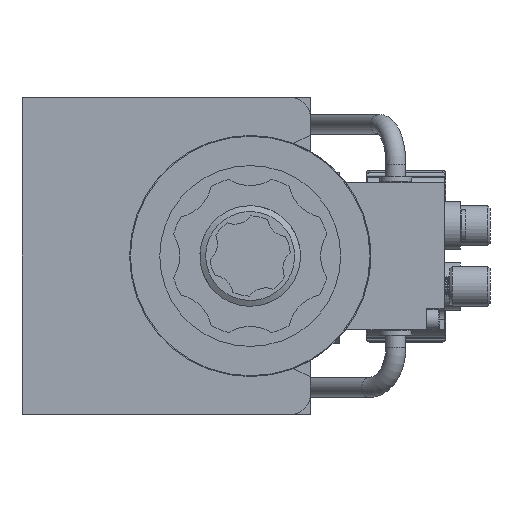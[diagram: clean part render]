
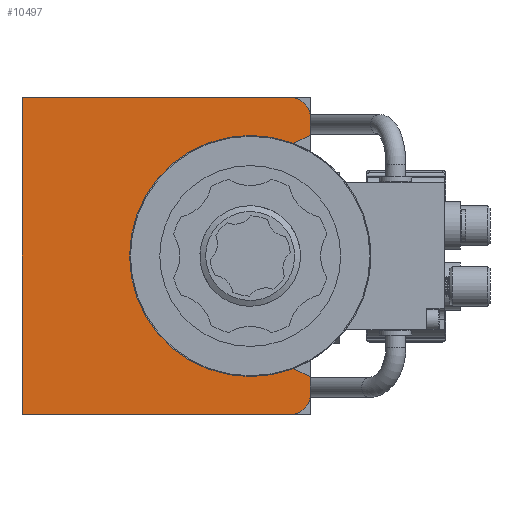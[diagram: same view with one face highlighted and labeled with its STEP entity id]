
A CAD part, left-side view. The second image highlights one B-rep face of the part: STEP entity #10497.
In plain terms, the highlighted planar face has unit normal (-1, 0, 0).
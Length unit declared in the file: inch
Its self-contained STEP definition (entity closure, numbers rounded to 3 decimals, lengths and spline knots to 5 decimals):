
#1940 = CARTESIAN_POINT ( 'NONE',  ( -5.1175, -0.5, 1.97 ) ) ;
#1941 = CARTESIAN_POINT ( 'NONE',  ( -5.1175, -0.75, -1.72 ) ) ;
#1943 = CARTESIAN_POINT ( 'NONE',  ( -5.1175, -0.75, 1.72 ) ) ;
#4733 = LINE ( 'NONE', #16235, #4770 ) ;
#4769 = LINE ( 'NONE', #16253, #4774 ) ;
#4770 = VECTOR ( 'NONE', #16241, 39.37008 ) ;
#4774 = VECTOR ( 'NONE', #16243, 39.37008 ) ;
#4776 = CIRCLE ( 'NONE', #36273, 0.265 ) ;
#4803 = CIRCLE ( 'NONE', #36209, 1.47 ) ;
#4829 = CIRCLE ( 'NONE', #36299, 0.265 ) ;
#4856 = CIRCLE ( 'NONE', #36306, 0.25 ) ;
#4882 = CIRCLE ( 'NONE', #36305, 0.25 ) ;
#4884 = LINE ( 'NONE', #16449, #4886 ) ;
#4885 = LINE ( 'NONE', #16456, #4888 ) ;
#4886 = VECTOR ( 'NONE', #16447, 39.37008 ) ;
#4887 = LINE ( 'NONE', #16458, #4890 ) ;
#4888 = VECTOR ( 'NONE', #16457, 39.37008 ) ;
#4889 = LINE ( 'NONE', #16460, #4892 ) ;
#4890 = VECTOR ( 'NONE', #16459, 39.37008 ) ;
#4892 = VECTOR ( 'NONE', #16461, 39.37008 ) ;
#10497 = ADVANCED_FACE ( 'NONE', ( #11209 ), #33197, .F. ) ;
#11209 = FACE_OUTER_BOUND ( 'NONE', #20646, .T. ) ;
#12528 = VERTEX_POINT ( 'NONE', #1943 ) ;
#12530 = VERTEX_POINT ( 'NONE', #1941 ) ;
#12531 = VERTEX_POINT ( 'NONE', #1940 ) ;
#12819 = VERTEX_POINT ( 'NONE', #17006 ) ;
#14372 = EDGE_CURVE ( 'NONE', #31056, #31112, #15023, .T. ) ;
#15023 = LINE ( 'NONE', #34747, #15029 ) ;
#15029 = VECTOR ( 'NONE', #34761, 39.37008 ) ;
#16235 = CARTESIAN_POINT ( 'NONE',  ( -5.1175, -0.75, 1.5 ) ) ;
#16241 = DIRECTION ( 'NONE',  ( 0., 0., 1. ) ) ;
#16243 = DIRECTION ( 'NONE',  ( 0., -0.912, 0.41 ) ) ;
#16253 = CARTESIAN_POINT ( 'NONE',  ( -5.1175, -0.75, 1.5 ) ) ;
#16256 = CARTESIAN_POINT ( 'NONE',  ( -5.1175, -0.45593, 1.65847 ) ) ;
#16257 = DIRECTION ( 'NONE',  ( -1., 0., 0. ) ) ;
#16258 = DIRECTION ( 'NONE',  ( 0., -1., 0. ) ) ;
#16303 = CARTESIAN_POINT ( 'NONE',  ( -5.1175, 0., 0. ) ) ;
#16304 = DIRECTION ( 'NONE',  ( -1., 0., 0. ) ) ;
#16305 = DIRECTION ( 'NONE',  ( 0., -1., 0. ) ) ;
#16409 = CARTESIAN_POINT ( 'NONE',  ( -5.1175, -0.45593, -1.65847 ) ) ;
#16410 = DIRECTION ( 'NONE',  ( 1., 0., 0. ) ) ;
#16411 = DIRECTION ( 'NONE',  ( 0., -1., 0. ) ) ;
#16413 = CARTESIAN_POINT ( 'NONE',  ( -5.1175, -0.5, 1.72 ) ) ;
#16414 = DIRECTION ( 'NONE',  ( -1., 0., 0. ) ) ;
#16415 = DIRECTION ( 'NONE',  ( 0., -1., 0. ) ) ;
#16447 = DIRECTION ( 'NONE',  ( 0., 0., -1. ) ) ;
#16449 = CARTESIAN_POINT ( 'NONE',  ( -5.1175, -0.75, -1.5 ) ) ;
#16453 = CARTESIAN_POINT ( 'NONE',  ( -5.1175, -0.5, -1.72 ) ) ;
#16454 = DIRECTION ( 'NONE',  ( 1., 0., 0. ) ) ;
#16455 = DIRECTION ( 'NONE',  ( 0., -1., 0. ) ) ;
#16456 = CARTESIAN_POINT ( 'NONE',  ( -5.1175, -0.75, -1.5 ) ) ;
#16457 = DIRECTION ( 'NONE',  ( 0., -0.912, -0.41 ) ) ;
#16458 = CARTESIAN_POINT ( 'NONE',  ( -5.1175, 2.838, -1.97 ) ) ;
#16459 = DIRECTION ( 'NONE',  ( 0., 1., 0. ) ) ;
#16460 = CARTESIAN_POINT ( 'NONE',  ( -5.1175, 2.838, 1.97 ) ) ;
#16461 = DIRECTION ( 'NONE',  ( 0., 1., 0. ) ) ;
#17006 = CARTESIAN_POINT ( 'NONE',  ( -5.1175, -0.46738, -1.39372 ) ) ;
#18897 = ORIENTED_EDGE ( 'NONE', *, *, #32201, .T. ) ;
#18898 = ORIENTED_EDGE ( 'NONE', *, *, #32205, .T. ) ;
#18899 = ORIENTED_EDGE ( 'NONE', *, *, #32280, .T. ) ;
#18900 = ORIENTED_EDGE ( 'NONE', *, *, #32260, .T. ) ;
#18901 = ORIENTED_EDGE ( 'NONE', *, *, #32279, .F. ) ;
#18902 = ORIENTED_EDGE ( 'NONE', *, *, #14372, .F. ) ;
#18903 = ORIENTED_EDGE ( 'NONE', *, *, #32276, .F. ) ;
#18962 = ORIENTED_EDGE ( 'NONE', *, *, #32278, .F. ) ;
#19024 = ORIENTED_EDGE ( 'NONE', *, *, #32224, .F. ) ;
#19026 = ORIENTED_EDGE ( 'NONE', *, *, #32277, .F. ) ;
#19051 = ORIENTED_EDGE ( 'NONE', *, *, #32259, .F. ) ;
#19063 = ORIENTED_EDGE ( 'NONE', *, *, #32206, .T. ) ;
#20646 = EDGE_LOOP ( 'NONE', ( #19024, #19063, #18898, #18897, #18900, #18899, #18902, #18901, #18903, #19026, #18962, #19051 ) ) ;
#21854 = AXIS2_PLACEMENT_3D ( 'NONE', #33185, #33183, #33181 ) ;
#23776 = CARTESIAN_POINT ( 'NONE',  ( -5.1175, -0.46738, 1.39372 ) ) ;
#23890 = CARTESIAN_POINT ( 'NONE',  ( -5.1175, 2.838, -1.97 ) ) ;
#23946 = CARTESIAN_POINT ( 'NONE',  ( -5.1175, 2.838, 1.97 ) ) ;
#23958 = CARTESIAN_POINT ( 'NONE',  ( -5.1175, -0.56444, 1.41671 ) ) ;
#23999 = CARTESIAN_POINT ( 'NONE',  ( -5.1175, -0.5, -1.97 ) ) ;
#24137 = CARTESIAN_POINT ( 'NONE',  ( -5.1175, -0.75, 1.5 ) ) ;
#24251 = CARTESIAN_POINT ( 'NONE',  ( -5.1175, -0.56444, -1.41671 ) ) ;
#24262 = CARTESIAN_POINT ( 'NONE',  ( -5.1175, -0.75, -1.5 ) ) ;
#30963 = VERTEX_POINT ( 'NONE', #23776 ) ;
#31056 = VERTEX_POINT ( 'NONE', #23890 ) ;
#31112 = VERTEX_POINT ( 'NONE', #23946 ) ;
#31124 = VERTEX_POINT ( 'NONE', #23958 ) ;
#31165 = VERTEX_POINT ( 'NONE', #23999 ) ;
#31255 = VERTEX_POINT ( 'NONE', #24137 ) ;
#31317 = VERTEX_POINT ( 'NONE', #24251 ) ;
#31323 = VERTEX_POINT ( 'NONE', #24262 ) ;
#32201 = EDGE_CURVE ( 'NONE', #31255, #12528, #4733, .T. ) ;
#32205 = EDGE_CURVE ( 'NONE', #31124, #31255, #4769, .T. ) ;
#32206 = EDGE_CURVE ( 'NONE', #30963, #31124, #4776, .T. ) ;
#32224 = EDGE_CURVE ( 'NONE', #30963, #12819, #4803, .T. ) ;
#32259 = EDGE_CURVE ( 'NONE', #12819, #31317, #4829, .T. ) ;
#32260 = EDGE_CURVE ( 'NONE', #12528, #12531, #4856, .T. ) ;
#32276 = EDGE_CURVE ( 'NONE', #12530, #31165, #4882, .T. ) ;
#32277 = EDGE_CURVE ( 'NONE', #31323, #12530, #4884, .T. ) ;
#32278 = EDGE_CURVE ( 'NONE', #31317, #31323, #4885, .T. ) ;
#32279 = EDGE_CURVE ( 'NONE', #31165, #31056, #4887, .T. ) ;
#32280 = EDGE_CURVE ( 'NONE', #12531, #31112, #4889, .T. ) ;
#33181 = DIRECTION ( 'NONE',  ( 0., -1., 0. ) ) ;
#33183 = DIRECTION ( 'NONE',  ( 1., 0., 0. ) ) ;
#33185 = CARTESIAN_POINT ( 'NONE',  ( -5.1175, 0., 0. ) ) ;
#33197 = PLANE ( 'NONE',  #21854 ) ;
#34747 = CARTESIAN_POINT ( 'NONE',  ( -5.1175, 2.838, 0. ) ) ;
#34761 = DIRECTION ( 'NONE',  ( 0., 0., 1. ) ) ;
#36209 = AXIS2_PLACEMENT_3D ( 'NONE', #16303, #16304, #16305 ) ;
#36273 = AXIS2_PLACEMENT_3D ( 'NONE', #16256, #16257, #16258 ) ;
#36299 = AXIS2_PLACEMENT_3D ( 'NONE', #16409, #16410, #16411 ) ;
#36305 = AXIS2_PLACEMENT_3D ( 'NONE', #16453, #16454, #16455 ) ;
#36306 = AXIS2_PLACEMENT_3D ( 'NONE', #16413, #16414, #16415 ) ;
